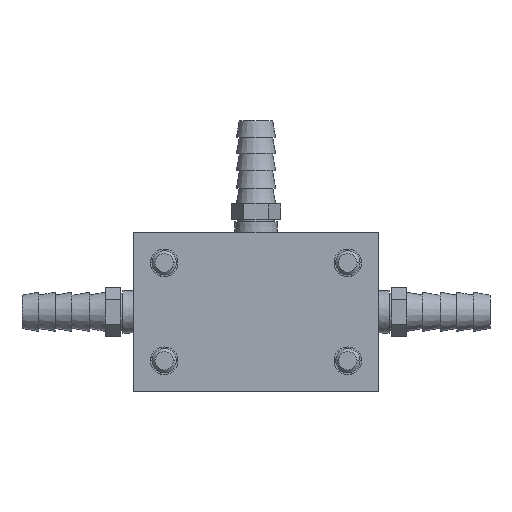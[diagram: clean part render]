
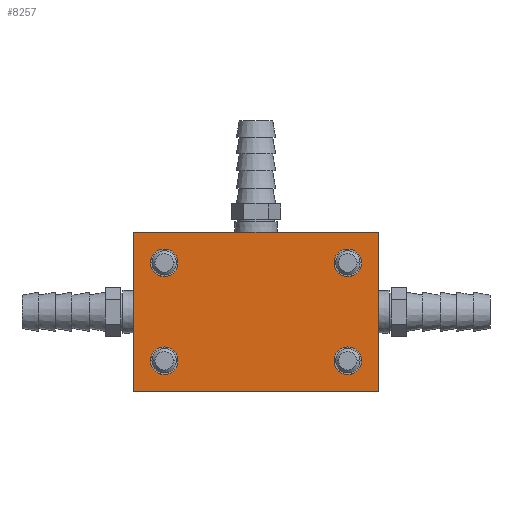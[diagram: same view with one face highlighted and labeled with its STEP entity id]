
A CAD part, left-side view. The second image highlights one B-rep face of the part: STEP entity #8257.
In plain terms, the highlighted planar face has unit normal (-1, 0, 0).
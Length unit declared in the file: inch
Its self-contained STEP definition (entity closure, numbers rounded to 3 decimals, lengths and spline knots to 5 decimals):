
#7995=CARTESIAN_POINT('',(-3.25,-0.9375,-0.5));
#7996=DIRECTION('',(1.,0.,0.));
#7997=DIRECTION('',(0.,-1.,0.));
#7998=AXIS2_PLACEMENT_3D('',#7995,#7996,#7997);
#8000=CARTESIAN_POINT('',(-3.25,-0.9375,-0.5));
#8001=DIRECTION('',(1.,0.,0.));
#8002=DIRECTION('',(0.,1.,0.));
#8003=AXIS2_PLACEMENT_3D('',#8000,#8001,#8002);
#8005=CARTESIAN_POINT('',(-3.25,0.9375,-0.5));
#8006=DIRECTION('',(1.,0.,0.));
#8007=DIRECTION('',(0.,-1.,0.));
#8008=AXIS2_PLACEMENT_3D('',#8005,#8006,#8007);
#8010=CARTESIAN_POINT('',(-3.25,0.9375,-0.5));
#8011=DIRECTION('',(1.,0.,0.));
#8012=DIRECTION('',(0.,1.,0.));
#8013=AXIS2_PLACEMENT_3D('',#8010,#8011,#8012);
#8015=CARTESIAN_POINT('',(-3.25,0.9375,0.5));
#8016=DIRECTION('',(1.,0.,0.));
#8017=DIRECTION('',(0.,-1.,0.));
#8018=AXIS2_PLACEMENT_3D('',#8015,#8016,#8017);
#8020=CARTESIAN_POINT('',(-3.25,0.9375,0.5));
#8021=DIRECTION('',(1.,0.,0.));
#8022=DIRECTION('',(0.,1.,0.));
#8023=AXIS2_PLACEMENT_3D('',#8020,#8021,#8022);
#8025=CARTESIAN_POINT('',(-3.25,-0.9375,0.5));
#8026=DIRECTION('',(1.,0.,0.));
#8027=DIRECTION('',(0.,-1.,0.));
#8028=AXIS2_PLACEMENT_3D('',#8025,#8026,#8027);
#8030=CARTESIAN_POINT('',(-3.25,-0.9375,0.5));
#8031=DIRECTION('',(1.,0.,0.));
#8032=DIRECTION('',(0.,1.,0.));
#8033=AXIS2_PLACEMENT_3D('',#8030,#8031,#8032);
#8127=DIRECTION('',(0.,0.,-1.));
#8128=VECTOR('',#8127,1.625);
#8129=CARTESIAN_POINT('',(-3.25,-1.25,0.8125));
#8130=LINE('',#8129,#8128);
#8135=DIRECTION('',(0.,1.,0.));
#8136=VECTOR('',#8135,2.5);
#8137=CARTESIAN_POINT('',(-3.25,-1.25,-0.8125));
#8138=LINE('',#8137,#8136);
#8139=DIRECTION('',(0.,0.,1.));
#8140=VECTOR('',#8139,1.625);
#8141=CARTESIAN_POINT('',(-3.25,1.25,-0.8125));
#8142=LINE('',#8141,#8140);
#8147=DIRECTION('',(0.,-1.,0.));
#8148=VECTOR('',#8147,2.5);
#8149=CARTESIAN_POINT('',(-3.25,1.25,0.8125));
#8150=LINE('',#8149,#8148);
#8159=CARTESIAN_POINT('',(-3.25,-1.25,-0.8125));
#8160=CARTESIAN_POINT('',(-3.25,1.25,-0.8125));
#8161=VERTEX_POINT('',#8159);
#8162=VERTEX_POINT('',#8160);
#8165=CARTESIAN_POINT('',(-3.25,-1.25,0.8125));
#8166=VERTEX_POINT('',#8165);
#8167=CARTESIAN_POINT('',(-3.25,1.25,0.8125));
#8168=VERTEX_POINT('',#8167);
#8171=CARTESIAN_POINT('',(-3.25,1.07813,0.5));
#8173=VERTEX_POINT('',#8171);
#8175=CARTESIAN_POINT('',(-3.25,0.79688,0.5));
#8177=VERTEX_POINT('',#8175);
#8179=CARTESIAN_POINT('',(-3.25,-0.79688,0.5));
#8181=VERTEX_POINT('',#8179);
#8183=CARTESIAN_POINT('',(-3.25,-1.07813,0.5));
#8185=VERTEX_POINT('',#8183);
#8187=CARTESIAN_POINT('',(-3.25,1.07813,-0.5));
#8189=VERTEX_POINT('',#8187);
#8191=CARTESIAN_POINT('',(-3.25,0.79688,-0.5));
#8193=VERTEX_POINT('',#8191);
#8195=CARTESIAN_POINT('',(-3.25,-0.79688,-0.5));
#8197=VERTEX_POINT('',#8195);
#8199=CARTESIAN_POINT('',(-3.25,-1.07813,-0.5));
#8201=VERTEX_POINT('',#8199);
#8219=CARTESIAN_POINT('',(-3.25,0.,0.));
#8220=DIRECTION('',(1.,0.,0.));
#8221=DIRECTION('',(0.,-1.,0.));
#8222=AXIS2_PLACEMENT_3D('',#8219,#8220,#8221);
#8223=PLANE('',#8222);
#8225=ORIENTED_EDGE('',*,*,#8224,.T.);
#8227=ORIENTED_EDGE('',*,*,#8226,.T.);
#8229=ORIENTED_EDGE('',*,*,#8228,.T.);
#8231=ORIENTED_EDGE('',*,*,#8230,.T.);
#8232=EDGE_LOOP('',(#8225,#8227,#8229,#8231));
#8233=FACE_OUTER_BOUND('',#8232,.F.);
#8235=ORIENTED_EDGE('',*,*,#8234,.F.);
#8237=ORIENTED_EDGE('',*,*,#8236,.F.);
#8238=EDGE_LOOP('',(#8235,#8237));
#8239=FACE_BOUND('',#8238,.F.);
#8240=ORIENTED_EDGE('',*,*,#8208,.F.);
#8242=ORIENTED_EDGE('',*,*,#8241,.F.);
#8243=EDGE_LOOP('',(#8240,#8242));
#8244=FACE_BOUND('',#8243,.F.);
#8246=ORIENTED_EDGE('',*,*,#8245,.F.);
#8248=ORIENTED_EDGE('',*,*,#8247,.F.);
#8249=EDGE_LOOP('',(#8246,#8248));
#8250=FACE_BOUND('',#8249,.F.);
#8252=ORIENTED_EDGE('',*,*,#8251,.F.);
#8254=ORIENTED_EDGE('',*,*,#8253,.F.);
#8255=EDGE_LOOP('',(#8252,#8254));
#8256=FACE_BOUND('',#8255,.F.);
#7999=CIRCLE('',#7998,0.14063);
#8004=CIRCLE('',#8003,0.14063);
#8009=CIRCLE('',#8008,0.14063);
#8014=CIRCLE('',#8013,0.14063);
#8019=CIRCLE('',#8018,0.14063);
#8024=CIRCLE('',#8023,0.14063);
#8029=CIRCLE('',#8028,0.14063);
#8034=CIRCLE('',#8033,0.14063);
#8208=EDGE_CURVE('',#8177,#8173,#8019,.T.);
#8224=EDGE_CURVE('',#8161,#8162,#8138,.T.);
#8226=EDGE_CURVE('',#8162,#8168,#8142,.T.);
#8228=EDGE_CURVE('',#8168,#8166,#8150,.T.);
#8230=EDGE_CURVE('',#8166,#8161,#8130,.T.);
#8234=EDGE_CURVE('',#8193,#8189,#8009,.T.);
#8236=EDGE_CURVE('',#8189,#8193,#8014,.T.);
#8241=EDGE_CURVE('',#8173,#8177,#8024,.T.);
#8245=EDGE_CURVE('',#8185,#8181,#8029,.T.);
#8247=EDGE_CURVE('',#8181,#8185,#8034,.T.);
#8251=EDGE_CURVE('',#8201,#8197,#7999,.T.);
#8253=EDGE_CURVE('',#8197,#8201,#8004,.T.);
#8257=ADVANCED_FACE('',(#8233,#8239,#8244,#8250,#8256),#8223,.F.);
